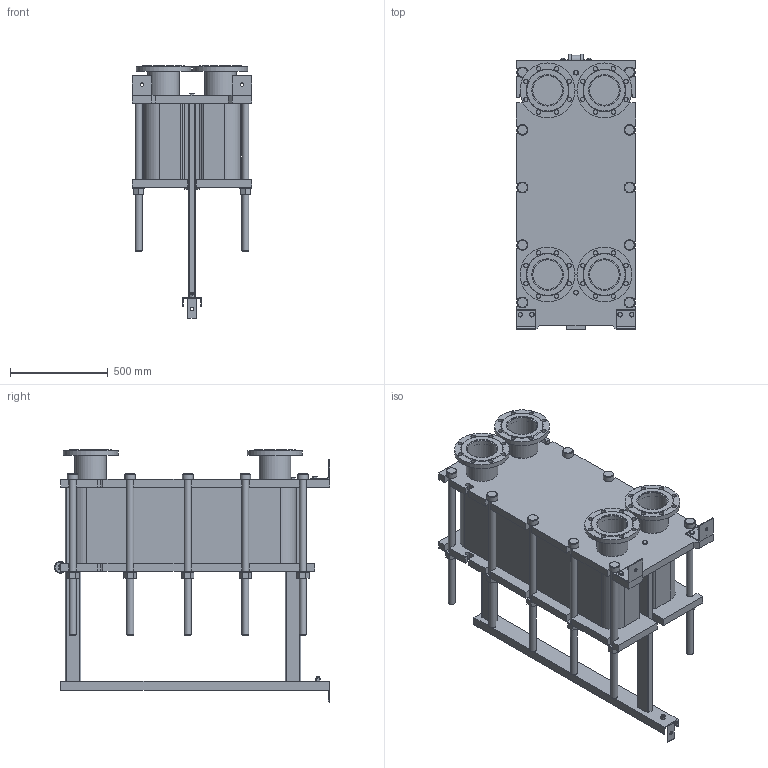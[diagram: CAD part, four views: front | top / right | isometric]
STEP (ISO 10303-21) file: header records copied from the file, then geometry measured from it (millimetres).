
FILE_DESCRIPTION(/* description */ (''),/* implementation_level */ '2;1');
FILE_NAME(/* name */ 'C:\Users\zhuro\Desktop\ENCO\TO\ЭН-041\ЭН-0,5-041-113-1.stp',/* time_stamp */ '2022-06-06T10:59:07+03:00',/* author */ ('zhuro'),/* organization */ (''),/* preprocessor_version */ 'ST-DEVELOPER v18.1',/* originating_system */ 'Autodesk Inventor 2022',/* authorisation */ '');
FILE_SCHEMA (('AUTOMOTIVE_DESIGN { 1 0 10303 214 3 1 1 }'));
Length unit declared in the file: millimetre
Products named in the file (1): ЭН-0,5-041-113-1
Bounding box: 610 x 1406.5 x 1287.5 mm (x, y, z)
Volume: 300652868.3 mm3; surface area: 9311150.5 mm2
Topology: 52 solids, 52 shells, 711 faces, 1696 edges, 1094 vertices
Faces by surface type: plane 487, cylinder 177, cone 41, torus 6
Full cylindrical faces by diameter (mm): 8 x4, 10 x2, 16 x8, 18 x3, 22 x32, 36 x24, 50 x1, 54 x10, 60 x12, 151 x4, 161 x8, 280 x4
Entity records: 22667 total; most frequent: CARTESIAN_POINT 5230, DIRECTION 3644, ORIENTED_EDGE 3392, EDGE_CURVE 1696, AXIS2_PLACEMENT_3D 1272, LINE 1100, VECTOR 1100, VERTEX_POINT 1094
